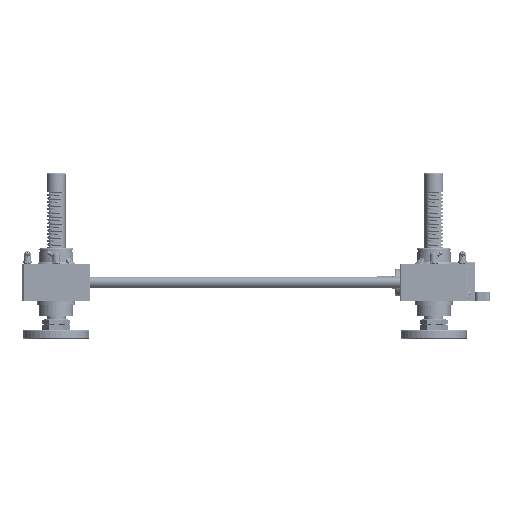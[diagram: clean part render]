
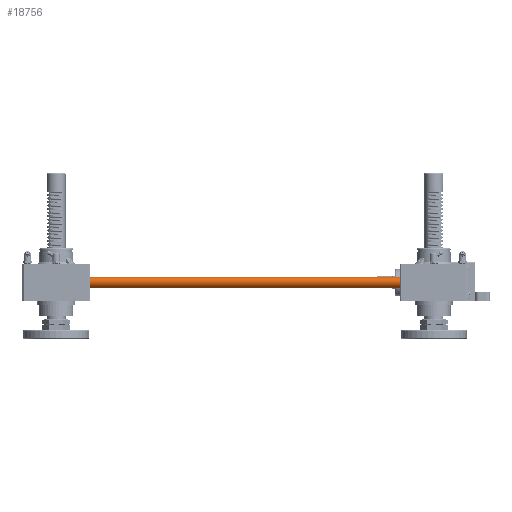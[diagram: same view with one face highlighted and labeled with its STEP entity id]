
A CAD part, front view. The second image highlights one B-rep face of the part: STEP entity #18756.
In plain terms, the highlighted cylindrical face has radius 7.5 mm (diameter 15 mm), a full revolution.
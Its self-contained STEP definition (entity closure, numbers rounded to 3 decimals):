
#18756=ADVANCED_FACE('',(#42949,#42950),#42951,.T.);
#42949=FACE_OUTER_BOUND('',#68473,.T.);
#42950=FACE_OUTER_BOUND('',#68474,.T.);
#42951=CYLINDRICAL_SURFACE('',#68475,7.5);
#68473=EDGE_LOOP('',(#164909));
#68474=EDGE_LOOP('',(#164910));
#68475=AXIS2_PLACEMENT_3D('',#164911,#164912,#164913);
#164909=ORIENTED_EDGE('',*,*,#195983,.T.);
#164910=ORIENTED_EDGE('',*,*,#195980,.T.);
#164911=CARTESIAN_POINT('',(0.0,0.0,532.0));
#164912=DIRECTION('',(0.0,0.0,-1.0));
#164913=DIRECTION('',(-1.0,0.0,0.0));
#195980=EDGE_CURVE('',#247804,#247804,#247805,.F.);
#195983=EDGE_CURVE('',#247810,#247810,#247811,.T.);
#247804=VERTEX_POINT('',#335018);
#247805=CIRCLE('',#335019,7.5);
#247810=VERTEX_POINT('',#335024);
#247811=CIRCLE('',#335025,7.5);
#335018=CARTESIAN_POINT('',(7.5,0.0,531.5));
#335019=AXIS2_PLACEMENT_3D('',#369886,#369887,#369888);
#335024=CARTESIAN_POINT('',(7.5,0.0,0.5));
#335025=AXIS2_PLACEMENT_3D('',#369895,#369896,#369897);
#369886=CARTESIAN_POINT('',(0.0,0.0,531.5));
#369887=DIRECTION('',(0.0,0.0,1.0));
#369888=DIRECTION('',(1.0,0.0,0.0));
#369895=CARTESIAN_POINT('',(0.0,0.0,0.5));
#369896=DIRECTION('',(0.0,0.0,1.0));
#369897=DIRECTION('',(1.0,0.0,0.0));
